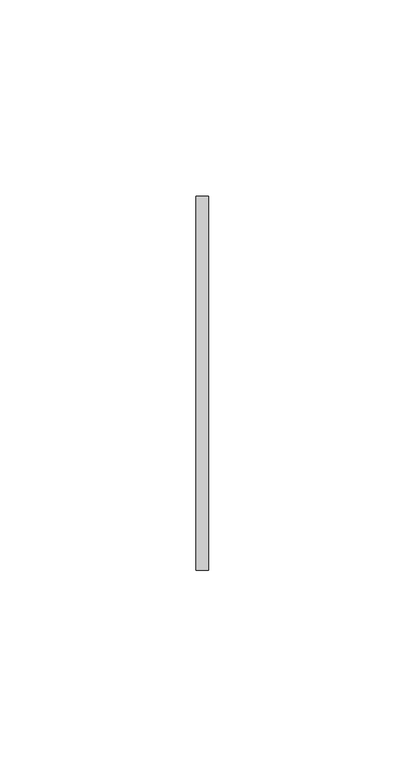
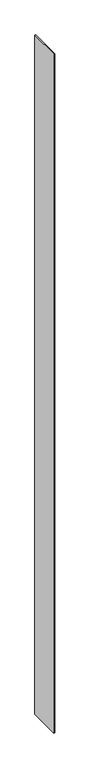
"""IFC4 building model written with IfcOpenShell, lengths in millimetres: furniture geometry, Geiger_GeigerOneCasegoods_WallEndTrim : DoubleSided 3.75Wx 0.125Dx 82.625H."""

from ifc_helpers import new_model, si_unit, origin, origin_with_axes, place, context, project, spatial, polyline, outline, extrude, source, transform, mapped, element, save


def furniture_cf8474a0(model_context):
    return source(origin(), model_context, "Body", "SweptSolid", [
        extrude(outline(polyline([(3.175, 47.625), (3.175, -47.625), (0.0, -47.625), (0.0, 47.625), (3.175, 47.625)])), origin_with_axes(), (0.0, 0.0, 1.0), 2098.675),
    ])


if __name__ == "__main__":
    model = new_model("IFC4")
    model_context = context("Model", 3, world=origin())
    ifc_project = project(units=[si_unit("LENGTHUNIT", "METRE", prefix="MILLI")], contexts=[model_context])
    site = spatial("IfcSite", under=ifc_project)
    building = spatial("IfcBuilding", under=site)
    placement = place(None, origin())
    furniture_shape = furniture_cf8474a0(model_context)
    element("IfcFurniture", 1, ObjectType="Geiger_GeigerOneCasegoods_WallEndTrim : DoubleSided 3.75Wx 0.125Dx 82.625H", at=placement, inside=building, context=model_context, shape_type="MappedRepresentation", body=[
        mapped(furniture_shape, transform((0.0, 0.0, 0.0), x_axis=(1.0, 0.0, 0.0), y_axis=(0.0, 1.0, 0.0), z_axis=(0.0, 0.0, 1.0))),
    ])
    save(model, "model.ifc")
